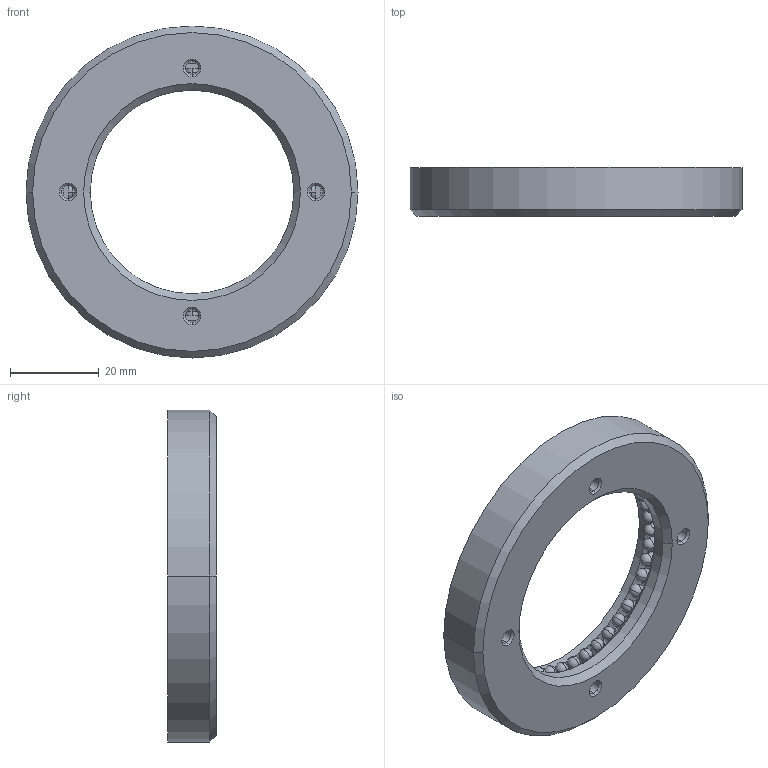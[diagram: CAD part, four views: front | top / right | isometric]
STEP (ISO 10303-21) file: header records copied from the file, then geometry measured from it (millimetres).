
FILE_DESCRIPTION((''),'2;1');
FILE_NAME('RL-96-90_ASM','2020-03-28T',('ASUS'),(''),'PRO/ENGINEER BY PARAMETRIC TECHNOLOGY CORPORATION, 2008380','PRO/ENGINEER BY PARAMETRIC TECHNOLOGY CORPORATION, 2008380','');
FILE_SCHEMA(('CONFIG_CONTROL_DESIGN'));
Length unit declared in the file: millimetre
Products named in the file (3): RL-96-90; 5_; RL-96-90_ASM
Assembly tree (41 placements, depth 2):
  RL-96-90_ASM
    RL-96-90
    5_  x40
Bounding box: 75 x 11 x 75 mm (x, y, z)
Volume: 26633.2 mm3; surface area: 13672.1 mm2
Topology: 41 solids, 41 shells, 358 faces, 740 edges, 422 vertices
Faces by surface type: cylinder 176, plane 88, sphere 80, cone 14
Entity records: 1810 total; most frequent: DIRECTION 366, CARTESIAN_POINT 275, ORIENTED_EDGE 228, AXIS2_PLACEMENT_3D 162, EDGE_CURVE 114, CIRCLE 72, VERTEX_POINT 71, EDGE_LOOP 55
